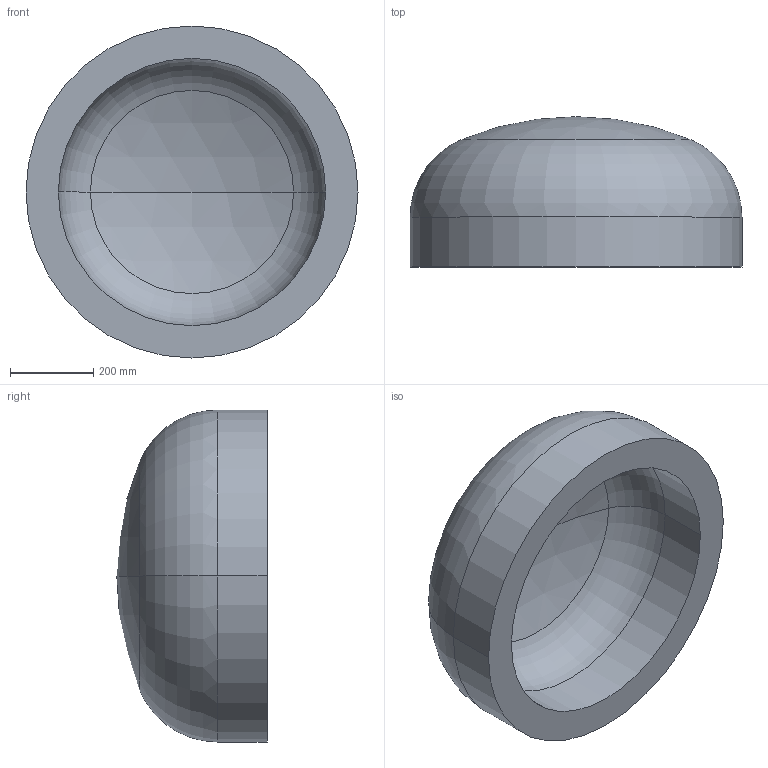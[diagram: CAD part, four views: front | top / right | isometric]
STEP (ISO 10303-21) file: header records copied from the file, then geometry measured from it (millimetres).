
FILE_DESCRIPTION (( 'STEP AP203' ), '1' );
FILE_NAME ('DIN 28013 Korbbogenform_-_Boden DIN 28013 - 800 x 120 - I - s=78.step', '2016-07-01T08:20:53', ( '' ), ( '' ), 'SwSTEP 2.0', 'SolidWorks 2013', '' );
FILE_SCHEMA (( 'CONFIG_CONTROL_DESIGN' ));
Length unit declared in the file: millimetre
Products named in the file (1): DIN 28013 Korbbogenform_-_Boden DIN 28013 - 800 x 120 - I - s=78
Bounding box: 800 x 362.17 x 800 mm (x, y, z)
Volume: 69499059.5 mm3; surface area: 1971691.2 mm2
Topology: 1 solids, 1 shells, 13 faces, 24 edges, 14 vertices
Faces by surface type: torus 4, cylinder 4, sphere 4, plane 1
Entity records: 407 total; most frequent: DIRECTION 72, CARTESIAN_POINT 52, ORIENTED_EDGE 48, AXIS2_PLACEMENT_3D 34, EDGE_CURVE 24, CIRCLE 20, VERTEX_POINT 14, EDGE_LOOP 14
